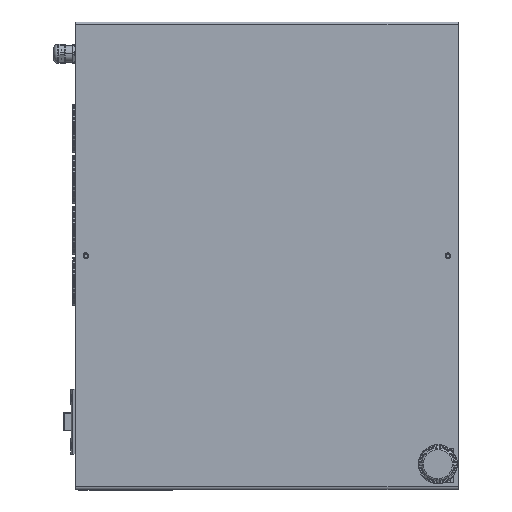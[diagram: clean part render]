
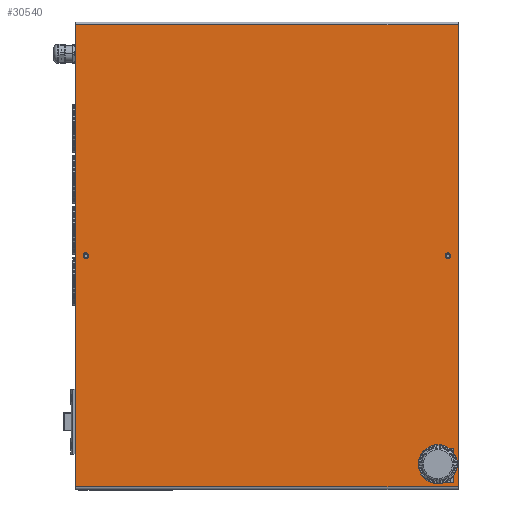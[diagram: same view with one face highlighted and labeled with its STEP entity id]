
A CAD part, top view. The second image highlights one B-rep face of the part: STEP entity #30540.
In plain terms, the highlighted planar face has unit normal (0, 0, 1) as drawn and (0, 1, 0) by its records, which use the part's own axes.
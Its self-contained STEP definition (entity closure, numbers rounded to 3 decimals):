
#872 = ORIENTED_EDGE ( 'NONE', *, *, #18355, .F. ) ;
#1500 = FACE_BOUND ( 'NONE', #98884, .T. ) ;
#2894 = VERTEX_POINT ( 'NONE', #7518 ) ;
#4587 = FACE_OUTER_BOUND ( 'NONE', #127974, .T. ) ;
#5193 = CARTESIAN_POINT ( 'NONE',  ( -272., 0., -225. ) ) ;
#5948 = ORIENTED_EDGE ( 'NONE', *, *, #22515, .F. ) ;
#6034 = VECTOR ( 'NONE', #59454, 1000. ) ;
#6201 = EDGE_CURVE ( 'NONE', #73315, #47059, #125187, .T. ) ;
#6690 = DIRECTION ( 'NONE',  ( 1., 0., 0. ) ) ;
#7244 = CARTESIAN_POINT ( 'NONE',  ( 227., 0., -203. ) ) ;
#7518 = CARTESIAN_POINT ( 'NONE',  ( 267., 0., -220. ) ) ;
#8435 = CIRCLE ( 'NONE', #95688, 20. ) ;
#10396 = CARTESIAN_POINT ( 'NONE',  ( -0.5, 0., -213. ) ) ;
#11715 = CARTESIAN_POINT ( 'NONE',  ( -275., 0., -225. ) ) ;
#12776 = VERTEX_POINT ( 'NONE', #90133 ) ;
#15315 = CARTESIAN_POINT ( 'NONE',  ( -272., 0., -225. ) ) ;
#15321 = CARTESIAN_POINT ( 'NONE',  ( 272., 0., -225. ) ) ;
#15732 = DIRECTION ( 'NONE',  ( 0., 0., 1. ) ) ;
#16660 = CIRCLE ( 'NONE', #56613, 20. ) ;
#16949 = VECTOR ( 'NONE', #84330, 1000. ) ;
#18355 = EDGE_CURVE ( 'NONE', #89521, #22454, #72677, .T. ) ;
#18546 = CARTESIAN_POINT ( 'NONE',  ( 0.5, 0., -213. ) ) ;
#18994 = DIRECTION ( 'NONE',  ( -1., 0., 0. ) ) ;
#19855 = EDGE_CURVE ( 'NONE', #64851, #32165, #54784, .T. ) ;
#22454 = VERTEX_POINT ( 'NONE', #89961 ) ;
#22515 = EDGE_CURVE ( 'NONE', #2894, #12776, #49621, .T. ) ;
#24125 = ORIENTED_EDGE ( 'NONE', *, *, #74001, .F. ) ;
#24902 = CARTESIAN_POINT ( 'NONE',  ( 272., 0., 225. ) ) ;
#26033 = AXIS2_PLACEMENT_3D ( 'NONE', #53446, #35162, #43922 ) ;
#27617 = CARTESIAN_POINT ( 'NONE',  ( -0.5, 0., 216. ) ) ;
#27623 = CARTESIAN_POINT ( 'NONE',  ( -0.5, 0., -216. ) ) ;
#27798 = CARTESIAN_POINT ( 'NONE',  ( -0.5, 0., -210. ) ) ;
#28000 = EDGE_CURVE ( 'NONE', #12776, #88162, #61022, .T. ) ;
#28494 = DIRECTION ( 'NONE',  ( 0., 1., 0. ) ) ;
#29153 = CARTESIAN_POINT ( 'NONE',  ( 272., 0., 225. ) ) ;
#29829 = CARTESIAN_POINT ( 'NONE',  ( -0.5, 0., -216. ) ) ;
#30540 = ADVANCED_FACE ( 'NONE', ( #106842, #1500, #113051, #4587 ), #90005, .T. ) ;
#30626 = DIRECTION ( 'NONE',  ( 0., 0., 1. ) ) ;
#31044 = VERTEX_POINT ( 'NONE', #27617 ) ;
#32165 = VERTEX_POINT ( 'NONE', #45203 ) ;
#35162 = DIRECTION ( 'NONE',  ( 0., 1., 0. ) ) ;
#36139 = EDGE_CURVE ( 'NONE', #88162, #50290, #8435, .T. ) ;
#36577 = EDGE_CURVE ( 'NONE', #108956, #73315, #53268, .T. ) ;
#37692 = ORIENTED_EDGE ( 'NONE', *, *, #28000, .F. ) ;
#38069 = ORIENTED_EDGE ( 'NONE', *, *, #75334, .F. ) ;
#38639 = AXIS2_PLACEMENT_3D ( 'NONE', #60567, #80498, #41522 ) ;
#38749 = ORIENTED_EDGE ( 'NONE', *, *, #126424, .F. ) ;
#40530 = CARTESIAN_POINT ( 'NONE',  ( 247., 0., -183. ) ) ;
#40798 = CARTESIAN_POINT ( 'NONE',  ( 267., 0., -220. ) ) ;
#41132 = VECTOR ( 'NONE', #63135, 1000. ) ;
#41522 = DIRECTION ( 'NONE',  ( 0., 0., -1. ) ) ;
#43738 = DIRECTION ( 'NONE',  ( 0., 0., 1. ) ) ;
#43922 = DIRECTION ( 'NONE',  ( 0., 0., -1. ) ) ;
#45064 = ORIENTED_EDGE ( 'NONE', *, *, #49302, .T. ) ;
#45203 = CARTESIAN_POINT ( 'NONE',  ( -272., 0., 225. ) ) ;
#46604 = ORIENTED_EDGE ( 'NONE', *, *, #100328, .T. ) ;
#46682 = CARTESIAN_POINT ( 'NONE',  ( 227., 0., -220. ) ) ;
#47002 = VERTEX_POINT ( 'NONE', #15321 ) ;
#47059 = VERTEX_POINT ( 'NONE', #122683 ) ;
#49302 = EDGE_CURVE ( 'NONE', #47002, #64851, #101243, .T. ) ;
#49378 = DIRECTION ( 'NONE',  ( 0., 1., 0. ) ) ;
#49574 = CARTESIAN_POINT ( 'NONE',  ( 0.5, 0., -216. ) ) ;
#49621 = LINE ( 'NONE', #55336, #16949 ) ;
#50290 = VERTEX_POINT ( 'NONE', #40530 ) ;
#51115 = ORIENTED_EDGE ( 'NONE', *, *, #36139, .F. ) ;
#51153 = CARTESIAN_POINT ( 'NONE',  ( -0.5, 0., 210. ) ) ;
#52187 = DIRECTION ( 'NONE',  ( 0., 0., 1. ) ) ;
#53268 = CIRCLE ( 'NONE', #125637, 3. ) ;
#53446 = CARTESIAN_POINT ( 'NONE',  ( -0.5, 0., 213. ) ) ;
#54784 = LINE ( 'NONE', #15315, #85697 ) ;
#55336 = CARTESIAN_POINT ( 'NONE',  ( 227., 0., -220. ) ) ;
#56613 = AXIS2_PLACEMENT_3D ( 'NONE', #83125, #103037, #43738 ) ;
#56713 = CARTESIAN_POINT ( 'NONE',  ( -0.5, 0., -210. ) ) ;
#56720 = DIRECTION ( 'NONE',  ( -1., 0., 0. ) ) ;
#57921 = VECTOR ( 'NONE', #102656, 1000. ) ;
#58543 = VERTEX_POINT ( 'NONE', #51153 ) ;
#58683 = DIRECTION ( 'NONE',  ( 0., 0., -1. ) ) ;
#59379 = EDGE_CURVE ( 'NONE', #118497, #47002, #67648, .T. ) ;
#59454 = DIRECTION ( 'NONE',  ( 0., 0., -1. ) ) ;
#59748 = ORIENTED_EDGE ( 'NONE', *, *, #72433, .F. ) ;
#60567 = CARTESIAN_POINT ( 'NONE',  ( 0.5, 0., 213. ) ) ;
#61022 = LINE ( 'NONE', #46682, #78060 ) ;
#61113 = CARTESIAN_POINT ( 'NONE',  ( 0.5, 0., 216. ) ) ;
#62151 = CARTESIAN_POINT ( 'NONE',  ( 247., 0., -203. ) ) ;
#63135 = DIRECTION ( 'NONE',  ( 1., 0., 0. ) ) ;
#64851 = VERTEX_POINT ( 'NONE', #5193 ) ;
#65100 = EDGE_CURVE ( 'NONE', #22454, #58543, #84702, .T. ) ;
#66549 = DIRECTION ( 'NONE',  ( 0., 0., 1. ) ) ;
#67648 = LINE ( 'NONE', #29153, #104773 ) ;
#68519 = VECTOR ( 'NONE', #56720, 1000. ) ;
#71241 = CIRCLE ( 'NONE', #90361, 3. ) ;
#72433 = EDGE_CURVE ( 'NONE', #107859, #108956, #124239, .T. ) ;
#72677 = CIRCLE ( 'NONE', #38639, 3. ) ;
#73315 = VERTEX_POINT ( 'NONE', #27798 ) ;
#73599 = ORIENTED_EDGE ( 'NONE', *, *, #6201, .F. ) ;
#74001 = EDGE_CURVE ( 'NONE', #47059, #107859, #71241, .T. ) ;
#75087 = CARTESIAN_POINT ( 'NONE',  ( -275., 0., 225. ) ) ;
#75334 = EDGE_CURVE ( 'NONE', #50290, #82644, #16660, .T. ) ;
#78060 = VECTOR ( 'NONE', #66549, 1000. ) ;
#80498 = DIRECTION ( 'NONE',  ( 0., 1., 0. ) ) ;
#80884 = CARTESIAN_POINT ( 'NONE',  ( -0.5, 0., 216. ) ) ;
#82644 = VERTEX_POINT ( 'NONE', #122069 ) ;
#83125 = CARTESIAN_POINT ( 'NONE',  ( 247., 0., -203. ) ) ;
#84330 = DIRECTION ( 'NONE',  ( -1., 0., 0. ) ) ;
#84702 = LINE ( 'NONE', #119390, #126508 ) ;
#85115 = LINE ( 'NONE', #40798, #6034 ) ;
#85697 = VECTOR ( 'NONE', #15732, 1000. ) ;
#86417 = ORIENTED_EDGE ( 'NONE', *, *, #36577, .F. ) ;
#87433 = EDGE_CURVE ( 'NONE', #58543, #31044, #107524, .T. ) ;
#88162 = VERTEX_POINT ( 'NONE', #7244 ) ;
#89222 = LINE ( 'NONE', #80884, #41132 ) ;
#89285 = DIRECTION ( 'NONE',  ( 0., 1., 0. ) ) ;
#89521 = VERTEX_POINT ( 'NONE', #61113 ) ;
#89961 = CARTESIAN_POINT ( 'NONE',  ( 0.5, 0., 210. ) ) ;
#90005 = PLANE ( 'NONE',  #106854 ) ;
#90120 = EDGE_CURVE ( 'NONE', #82644, #2894, #85115, .T. ) ;
#90133 = CARTESIAN_POINT ( 'NONE',  ( 227., 0., -220. ) ) ;
#90291 = DIRECTION ( 'NONE',  ( 0., 1., 0. ) ) ;
#90361 = AXIS2_PLACEMENT_3D ( 'NONE', #18546, #28494, #117693 ) ;
#95688 = AXIS2_PLACEMENT_3D ( 'NONE', #62151, #90291, #52187 ) ;
#95749 = VECTOR ( 'NONE', #6690, 1000. ) ;
#98884 = EDGE_LOOP ( 'NONE', ( #86417, #59748, #24125, #73599 ) ) ;
#100328 = EDGE_CURVE ( 'NONE', #32165, #118497, #123979, .T. ) ;
#101243 = LINE ( 'NONE', #11715, #57921 ) ;
#102305 = EDGE_LOOP ( 'NONE', ( #127533, #120439, #872, #38749 ) ) ;
#102656 = DIRECTION ( 'NONE',  ( -1., 0., 0. ) ) ;
#103037 = DIRECTION ( 'NONE',  ( 0., 1., 0. ) ) ;
#104773 = VECTOR ( 'NONE', #58683, 1000. ) ;
#105491 = VECTOR ( 'NONE', #125656, 1000. ) ;
#106842 = FACE_BOUND ( 'NONE', #102305, .T. ) ;
#106854 = AXIS2_PLACEMENT_3D ( 'NONE', #128060, #49378, #30626 ) ;
#107524 = CIRCLE ( 'NONE', #26033, 3. ) ;
#107859 = VERTEX_POINT ( 'NONE', #49574 ) ;
#108956 = VERTEX_POINT ( 'NONE', #29829 ) ;
#113051 = FACE_BOUND ( 'NONE', #124643, .T. ) ;
#117693 = DIRECTION ( 'NONE',  ( 0., 0., 1. ) ) ;
#118497 = VERTEX_POINT ( 'NONE', #24902 ) ;
#119230 = ORIENTED_EDGE ( 'NONE', *, *, #19855, .T. ) ;
#119390 = CARTESIAN_POINT ( 'NONE',  ( -0.5, 0., 210. ) ) ;
#119957 = DIRECTION ( 'NONE',  ( 0., 0., 1. ) ) ;
#120439 = ORIENTED_EDGE ( 'NONE', *, *, #65100, .F. ) ;
#120746 = ORIENTED_EDGE ( 'NONE', *, *, #59379, .T. ) ;
#122069 = CARTESIAN_POINT ( 'NONE',  ( 267., 0., -203. ) ) ;
#122083 = ORIENTED_EDGE ( 'NONE', *, *, #90120, .F. ) ;
#122683 = CARTESIAN_POINT ( 'NONE',  ( 0.5, 0., -210. ) ) ;
#123979 = LINE ( 'NONE', #75087, #105491 ) ;
#124239 = LINE ( 'NONE', #27623, #68519 ) ;
#124643 = EDGE_LOOP ( 'NONE', ( #37692, #5948, #122083, #38069, #51115 ) ) ;
#125187 = LINE ( 'NONE', #56713, #95749 ) ;
#125637 = AXIS2_PLACEMENT_3D ( 'NONE', #10396, #89285, #119957 ) ;
#125656 = DIRECTION ( 'NONE',  ( 1., 0., 0. ) ) ;
#126424 = EDGE_CURVE ( 'NONE', #31044, #89521, #89222, .T. ) ;
#126508 = VECTOR ( 'NONE', #18994, 1000. ) ;
#127533 = ORIENTED_EDGE ( 'NONE', *, *, #87433, .F. ) ;
#127974 = EDGE_LOOP ( 'NONE', ( #45064, #119230, #46604, #120746 ) ) ;
#128060 = CARTESIAN_POINT ( 'NONE',  ( 0., 0., 0. ) ) ;
